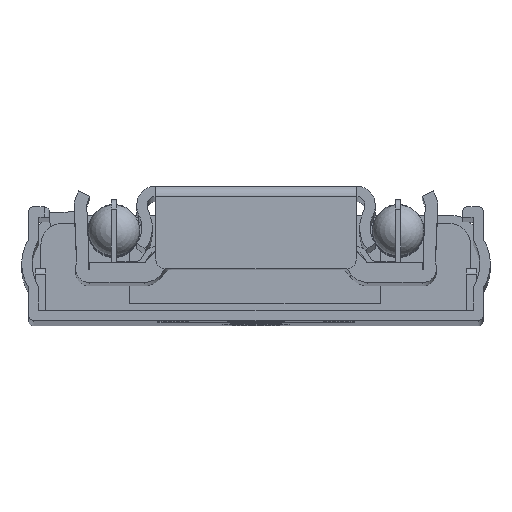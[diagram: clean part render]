
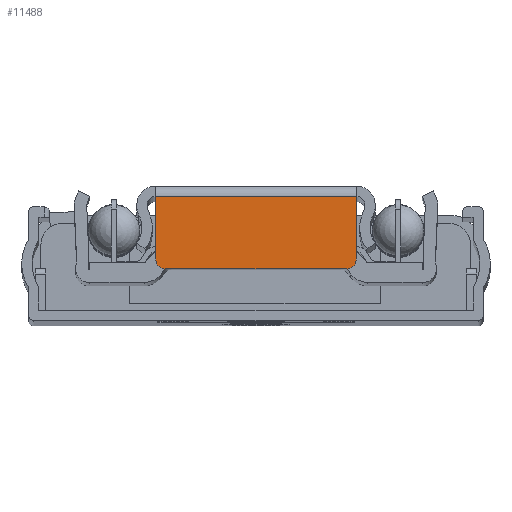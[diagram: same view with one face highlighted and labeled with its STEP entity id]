
A CAD part, top view. The second image highlights one B-rep face of the part: STEP entity #11488.
In plain terms, the highlighted planar face has unit normal (0, 0, 1).
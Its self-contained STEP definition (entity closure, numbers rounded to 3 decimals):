
#667=CIRCLE('',#12565,1.);
#668=CIRCLE('',#12566,1.);
#1452=FACE_OUTER_BOUND('',#2125,.T.);
#2125=EDGE_LOOP('',(#10243,#10244,#10245,#10246,#10247,#10248));
#3257=LINE('',#19209,#4413);
#3258=LINE('',#19212,#4414);
#3259=LINE('',#19216,#4415);
#3260=LINE('',#19219,#4416);
#4413=VECTOR('',#15693,10.);
#4414=VECTOR('',#15696,10.);
#4415=VECTOR('',#15699,10.);
#4416=VECTOR('',#15702,10.);
#5514=VERTEX_POINT('',#19202);
#5517=VERTEX_POINT('',#19207);
#5518=VERTEX_POINT('',#19211);
#5519=VERTEX_POINT('',#19213);
#5520=VERTEX_POINT('',#19215);
#5521=VERTEX_POINT('',#19217);
#7135=EDGE_CURVE('',#5517,#5514,#3257,.T.);
#7136=EDGE_CURVE('',#5517,#5518,#3258,.T.);
#7137=EDGE_CURVE('',#5519,#5518,#667,.T.);
#7138=EDGE_CURVE('',#5519,#5520,#3259,.T.);
#7139=EDGE_CURVE('',#5521,#5520,#668,.T.);
#7140=EDGE_CURVE('',#5514,#5521,#3260,.T.);
#10243=ORIENTED_EDGE('',*,*,#7135,.F.);
#10244=ORIENTED_EDGE('',*,*,#7136,.T.);
#10245=ORIENTED_EDGE('',*,*,#7137,.F.);
#10246=ORIENTED_EDGE('',*,*,#7138,.T.);
#10247=ORIENTED_EDGE('',*,*,#7139,.F.);
#10248=ORIENTED_EDGE('',*,*,#7140,.F.);
#10928=PLANE('',#12564);
#11488=ADVANCED_FACE('',(#1452),#10928,.T.);
#12564=AXIS2_PLACEMENT_3D('',#19210,#15694,#15695);
#12565=AXIS2_PLACEMENT_3D('',#19214,#15697,#15698);
#12566=AXIS2_PLACEMENT_3D('',#19218,#15700,#15701);
#15693=DIRECTION('',(-1.,0.,0.));
#15694=DIRECTION('center_axis',(0.,0.,1.));
#15695=DIRECTION('ref_axis',(1.,0.,0.));
#15696=DIRECTION('',(0.,1.,0.));
#15697=DIRECTION('center_axis',(0.,0.,-1.));
#15698=DIRECTION('ref_axis',(0.707,0.707,0.));
#15699=DIRECTION('',(-1.,0.,0.));
#15700=DIRECTION('center_axis',(0.,0.,-1.));
#15701=DIRECTION('ref_axis',(-0.707,0.707,0.));
#15702=DIRECTION('',(0.,1.,0.));
#19202=CARTESIAN_POINT('',(4.892,-4.95,299.));
#19207=CARTESIAN_POINT('',(24.354,-4.95,299.));
#19209=CARTESIAN_POINT('',(19.501,-4.95,299.));
#19210=CARTESIAN_POINT('Origin',(24.354,-5.95,299.));
#19211=CARTESIAN_POINT('',(24.354,1.05,299.));
#19212=CARTESIAN_POINT('',(24.354,-5.95,299.));
#19213=CARTESIAN_POINT('',(23.354,2.05,299.));
#19214=CARTESIAN_POINT('Origin',(23.354,1.05,299.));
#19215=CARTESIAN_POINT('',(5.892,2.05,299.));
#19216=CARTESIAN_POINT('',(24.354,2.05,299.));
#19217=CARTESIAN_POINT('',(4.892,1.05,299.));
#19218=CARTESIAN_POINT('Origin',(5.892,1.05,299.));
#19219=CARTESIAN_POINT('',(4.892,-5.95,299.));
